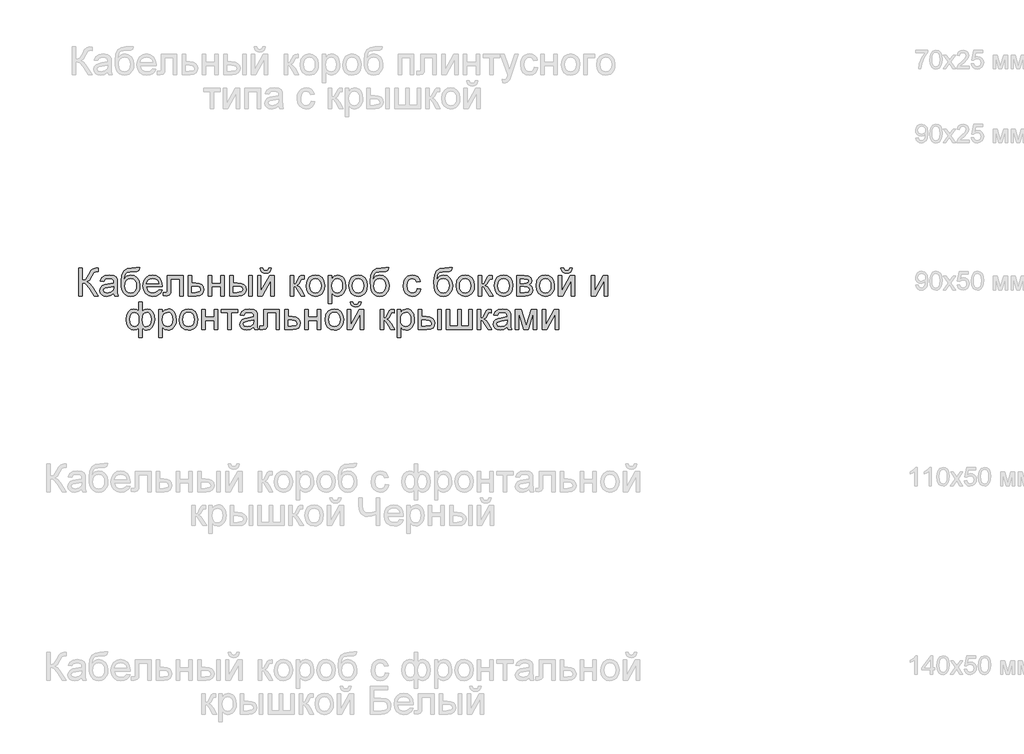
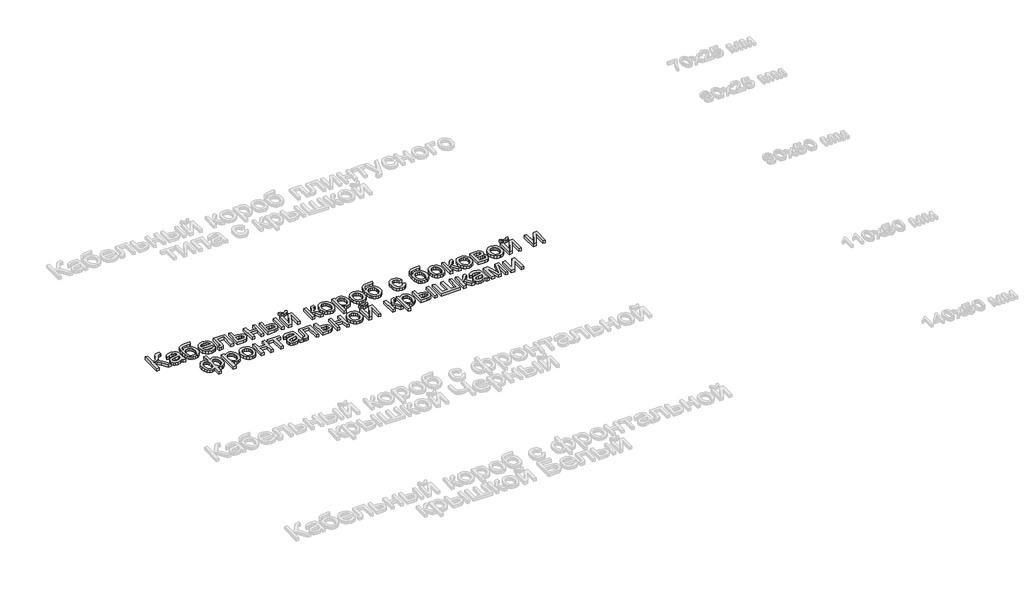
# One storey, part 27 of 48: 1 proxy.
"""IFC4 building model written with IfcOpenShell, lengths in millimetres."""

from ifc_helpers import new_model, si_unit, origin, origin_with_axes, place, context, project, spatial, polyline, outline, extrude, element, save

model = new_model("IFC4")

# Units and contexts
model_context = context("Model", 3, world=origin())
ifc_project = project(units=[si_unit("LENGTHUNIT", "METRE", prefix="MILLI")], contexts=[model_context])

# Site, building, storey
site = spatial("IfcSite", under=ifc_project)
building = spatial("IfcBuilding", under=site)
storey = spatial("IfcBuildingStorey", under=building, Name="Этаж 01", Elevation=0.0)

# Proxy
placement = place(None, origin())
element("IfcBuildingElementProxy", 1, Name="150 мм Arial", ObjectType="150 мм Arial", at=placement, inside=storey, context=model_context, shape_type="SweptSolid", body=[
    extrude(outline(polyline([(-4387.9510033, 3524.5958673), (-4369.1154452, 3524.5958673), (-4369.1154452, 3458.6714138), (-4356.3637355, 3459.917614), (-4348.054201, 3463.6562148), (-4333.3573152, 3488.8745256), (-4322.9646489, 3509.9357698), (-4311.192425, 3520.3652244), (-4294.3618238, 3524.5958673), (-4282.0009887, 3524.3751381), (-4282.0009887, 3505.53958), (-4286.1580553, 3505.6499446), (-4290.3151218, 3505.7603092), (-4305.0304016, 3501.2353606), (-4316.2140143, 3481.8479795), (-4329.5497366, 3458.2299554), (-4342.5543651, 3450.4308571), (-4328.0138293, 3441.9143889), (-4313.6756285, 3424.1640826), (-4282.0009887, 3373.9114021), (-4303.8531792, 3373.9114021), (-4330.6349885, 3416.3649843), (-4349.4889407, 3438.5298745), (-4358.1939484, 3443.0410275), (-4369.1154452, 3444.5447452), (-4369.1154452, 3373.9114021), (-4387.9510033, 3373.9114021), (-4387.9510033, 3524.5958673)])), origin_with_axes(), (0.0, 0.0, 1.0), 20.0),
    extrude(outline(polyline([(-4197.240977, 3388.0380707), (-4215.5063181, 3375.2725655), (-4235.6846455, 3371.5569573), (-4251.4253964, 3373.7918404), (-4263.0366719, 3380.4964898), (-4270.1965752, 3390.677624), (-4272.5832096, 3403.3419617), (-4268.9779661, 3418.2411825), (-4259.5050047, 3429.0569132), (-4246.3164352, 3435.2373307), (-4230.0192628, 3438.0700221), (-4197.3513416, 3444.5447452), (-4197.240977, 3448.7385999), (-4198.5377611, 3457.1447035), (-4202.4281132, 3462.6445393), (-4211.1285223, 3466.7280295), (-4223.2502341, 3468.0891929), (-4242.3065214, 3464.4655552), (-4251.3932067, 3451.6080795), (-4270.2287649, 3453.9625242), (-4262.0801787, 3472.356624), (-4245.6726417, 3483.1355665), (-4220.8222129, 3486.924751), (-4197.9951351, 3483.5770249), (-4185.1008712, 3475.1709213), (-4179.3251239, 3462.3870219), (-4178.4054189, 3445.9059086), (-4178.4054189, 3422.4718255), (-4177.4489257, 3389.748722), (-4173.6965293, 3373.9114021), (-4192.5320875, 3373.9114021), (-4197.240977, 3388.0380707)]), holes=[polyline([(-4197.240977, 3425.709187), (-4227.6280298, 3419.9334397), (-4243.8332317, 3416.8800191), (-4251.1724775, 3411.9136122), (-4253.7476515, 3404.6663369), (-4248.1374511, 3394.4760056), (-4231.6747318, 3390.3925155), (-4212.6184444, 3394.8990699), (-4200.3311858, 3405.8067711), (-4197.3513416, 3420.3748981), (-4197.240977, 3425.709187)])]), origin_with_axes(), (0.0, 0.0, 1.0), 20.0),
    extrude(outline(polyline([(-4074.809849, 3526.9503121), (-4058.3287356, 3526.9503121), (-4063.184778, 3512.2534264), (-4072.7864981, 3506.9375316), (-4095.8526992, 3505.7603092), (-4126.9203336, 3501.4193016), (-4134.0480473, 3495.772313), (-4138.8397103, 3487.5133622), (-4142.8680181, 3462.9020567), (-4126.5524517, 3480.9282745), (-4116.6334334, 3485.4256319), (-4105.5279956, 3486.924751), (-4085.9290823, 3483.1125738), (-4070.0273831, 3471.6760423), (-4059.4875639, 3453.7371965), (-4055.9742909, 3430.4180766), (-4057.7171318, 3412.437844), (-4062.9456547, 3398.0076728), (-4079.4819504, 3378.4547447), (-4090.7759276, 3373.2814042), (-4105.5279956, 3371.5569573), (-4122.5287423, 3373.7780449), (-4135.2712549, 3380.4413075), (-4144.6476473, 3390.5672594), (-4151.5500332, 3403.1764148), (-4155.7990703, 3422.1637243), (-4157.215416, 3451.4241385), (-4153.6423621, 3487.563946), (-4142.9232004, 3509.604676), (-4124.7912166, 3520.8480695), (-4098.9796961, 3524.5958673), (-4078.0104224, 3525.0189316), (-4074.809849, 3526.9503121)]), holes=[polyline([(-4074.809849, 3431.0066877), (-4076.8515941, 3445.8277336), (-4082.9768293, 3457.6965265), (-4092.8176727, 3465.4910263), (-4106.0062422, 3468.0891929), (-4119.7558318, 3465.3438735), (-4129.9553601, 3457.1079153), (-4136.2737334, 3444.2826292), (-4138.3798578, 3427.7693262), (-4136.0530042, 3411.7618609), (-4129.0724433, 3400.0126297), (-4118.679777, 3392.797544), (-4106.1166068, 3390.3925155), (-4093.4890573, 3393.1746231), (-4083.4918641, 3401.5209458), (-4076.9803528, 3414.4565965), (-4074.809849, 3431.0066877)])]), origin_with_axes(), (0.0, 0.0, 1.0), 20.0),
    extrude(outline(polyline([(-3954.953895, 3406.8736289), (-3936.4862188, 3404.5191841), (-3943.1402844, 3390.6040476), (-3953.7582785, 3380.2021842), (-3968.1010778, 3373.718264), (-3985.929559, 3371.5569573), (-4008.0300699, 3375.2863611), (-4025.0354151, 3386.4745722), (-4035.8787369, 3404.3950239), (-4039.4931775, 3428.3211492), (-4035.8419487, 3453.0520163), (-4024.8882623, 3471.5472836), (-4008.1128433, 3483.0803842), (-3986.9964168, 3486.924751), (-3966.5375793, 3483.0895812), (-3950.1898232, 3471.5840718), (-3939.4706615, 3453.1255927), (-3935.8976077, 3428.4315138), (-3936.0079723, 3423.3547422), (-4020.6576193, 3423.3547422), (-4017.3972652, 3409.2556648), (-4009.8234946, 3398.8905896), (-3998.8928008, 3392.517034), (-3985.561677, 3390.3925155), (-3967.0940008, 3394.3288528), (-3954.953895, 3406.8736289)]), holes=[polyline([(-4020.6576193, 3442.1903004), (-3954.7331658, 3442.1903004), (-3957.2807486, 3452.1415084), (-3962.2747467, 3459.260025), (-3973.2560243, 3465.8819009), (-3987.0699932, 3468.0891929), (-3999.7665205, 3466.3279578), (-4010.264953, 3461.0442527), (-4017.5628121, 3452.8082945), (-4020.6576193, 3442.1903004)])]), origin_with_axes(), (0.0, 0.0, 1.0), 20.0),
    extrude(outline(polyline([(-3907.6442704, 3484.5703062), (-3822.8842587, 3484.5703062), (-3822.8842587, 3374.0217667), (-3841.7198169, 3374.0217667), (-3841.7198169, 3465.7347481), (-3888.8087123, 3465.7347481), (-3888.8087123, 3412.9436818), (-3890.0779052, 3388.5898937), (-3897.049269, 3378.3075919), (-3913.5303823, 3373.9114021), (-3928.8342733, 3374.8678953), (-3928.8342733, 3392.7469602), (-3920.4097757, 3392.7469602), (-3911.8933075, 3393.9057885), (-3908.490399, 3397.5846085), (-3907.6442704, 3414.0105396), (-3907.6442704, 3484.5703062)])), origin_with_axes(), (0.0, 0.0, 1.0), 20.0),
    extrude(outline(polyline([(-3794.6309215, 3484.5703062), (-3775.7953634, 3484.5703062), (-3775.7953634, 3444.5447452), (-3754.0903256, 3444.5447452), (-3735.2731616, 3442.1857019), (-3721.3488281, 3435.108572), (-3712.7403894, 3423.8835726), (-3709.8709098, 3409.0809208), (-3712.3127266, 3395.6026442), (-3719.6381768, 3384.2304921), (-3732.3347041, 3376.4911746), (-3750.8897523, 3373.9114021), (-3794.6309215, 3373.9114021), (-3794.6309215, 3484.5703062)]), holes=[polyline([(-3775.7953634, 3392.7469602), (-3758.210604, 3392.7469602), (-3735.4938908, 3396.7016917), (-3730.4033237, 3401.7646677), (-3728.706468, 3409.0441326), (-3733.7280572, 3420.6324155), (-3741.7984685, 3424.4399941), (-3755.9665238, 3425.709187), (-3775.7953634, 3425.709187), (-3775.7953634, 3392.7469602)])]), origin_with_axes(), (0.0, 0.0, 1.0), 20.0),
    extrude(outline(polyline([(-3686.3264621, 3484.5703062), (-3667.490904, 3484.5703062), (-3667.490904, 3442.1903004), (-3618.0475638, 3442.1903004), (-3618.0475638, 3484.5703062), (-3599.2120057, 3484.5703062), (-3599.2120057, 3373.9114021), (-3618.0475638, 3373.9114021), (-3618.0475638, 3423.3547422), (-3667.490904, 3423.3547422), (-3667.490904, 3373.9114021), (-3686.3264621, 3373.9114021), (-3686.3264621, 3484.5703062)])), origin_with_axes(), (0.0, 0.0, 1.0), 20.0),
    extrude(outline(polyline([(-3467.3630986, 3484.5703062), (-3448.5275404, 3484.5703062), (-3448.5275404, 3373.9114021), (-3467.3630986, 3373.9114021), (-3467.3630986, 3484.5703062)])), origin_with_axes(), (0.0, 0.0, 1.0), 20.0),
    extrude(outline(polyline([(-3570.9586684, 3484.5703062), (-3552.1231103, 3484.5703062), (-3552.1231103, 3444.5447452), (-3528.83618, 3444.5447452), (-3508.7084363, 3442.1857019), (-3493.79542, 3435.108572), (-3484.5661804, 3423.8835726), (-3481.4897672, 3409.0809208), (-3484.0695397, 3395.6026442), (-3491.8088572, 3384.2304921), (-3505.2135574, 3376.4911746), (-3524.789478, 3373.9114021), (-3570.9586684, 3373.9114021), (-3570.9586684, 3484.5703062)]), holes=[polyline([(-3552.1231103, 3392.7469602), (-3532.7725173, 3392.7469602), (-3507.7933299, 3396.7016917), (-3502.1923265, 3401.7646677), (-3500.3253254, 3409.0441326), (-3505.8619494, 3420.6324155), (-3514.7417011, 3424.4399941), (-3530.307708, 3425.709187), (-3552.1231103, 3425.709187), (-3552.1231103, 3392.7469602)])]), origin_with_axes(), (0.0, 0.0, 1.0), 20.0),
    extrude(outline(polyline([(-3359.0586392, 3524.5958673), (-3344.9319706, 3524.5958673), (-3347.9715956, 3512.5339364), (-3354.0738382, 3503.6449877), (-3362.9627869, 3498.1681445), (-3374.3625302, 3496.3425301), (-3386.7325623, 3498.1543489), (-3396.3250853, 3503.5898054), (-3402.8825819, 3512.4649585), (-3406.1475346, 3524.5958673), (-3392.020866, 3524.5958673), (-3386.7233653, 3513.9824718), (-3376.0547874, 3510.4691987), (-3364.3561399, 3513.8721072), (-3359.0586392, 3524.5958673)])), origin_with_axes(), (0.0, 0.0, 1.0), 20.0),
    extrude(outline(polyline([(-3420.2742032, 3484.5703062), (-3401.4386451, 3484.5703062), (-3401.4386451, 3400.1781766), (-3355.1590901, 3484.5703062), (-3330.805302, 3484.5703062), (-3330.805302, 3373.9114021), (-3349.6408601, 3373.9114021), (-3349.6408601, 3457.788497), (-3395.6261095, 3373.9114021), (-3420.2742032, 3373.9114021), (-3420.2742032, 3484.5703062)])), origin_with_axes(), (0.0, 0.0, 1.0), 20.0),
    extrude(outline(polyline([(-3243.6908455, 3484.5703062), (-3224.8552874, 3484.5703062), (-3224.8552874, 3437.4814109), (-3212.2369349, 3440.8659252), (-3201.8994509, 3460.5844002), (-3193.3094063, 3477.5989424), (-3185.7310372, 3483.1355665), (-3171.9538565, 3484.5703062), (-3168.3486129, 3484.5703062), (-3168.3486129, 3465.6243835), (-3173.4253845, 3465.7347481), (-3182.6224343, 3463.7481853), (-3189.0971574, 3451.3505621), (-3196.6939206, 3437.9412634), (-3207.3441044, 3431.3745697), (-3195.461516, 3424.044521), (-3183.7996567, 3408.6026742), (-3163.6397234, 3373.9114021), (-3185.0504555, 3373.9114021), (-3204.8057186, 3407.8669103), (-3214.7385325, 3422.2327022), (-3224.8552874, 3425.709187), (-3224.8552874, 3373.9114021), (-3243.6908455, 3373.9114021), (-3243.6908455, 3484.5703062)])), origin_with_axes(), (0.0, 0.0, 1.0), 20.0),
    extrude(outline(polyline([(-3156.5763891, 3429.2408542), (-3152.502096, 3455.9214959), (-3140.2792167, 3474.6742806), (-3125.1776608, 3483.8621334), (-3107.0962607, 3486.924751), (-3087.3088079, 3483.1953473), (-3071.5036777, 3472.0071361), (-3061.143201, 3454.2430343), (-3057.6897088, 3430.7859586), (-3059.216419, 3411.7572624), (-3063.7965499, 3397.2719088), (-3071.2967441, 3386.4239885), (-3081.5836444, 3378.3075919), (-3093.8019251, 3373.244616), (-3107.0962607, 3371.5569573), (-3127.1228368, 3375.2725655), (-3142.909573, 3386.4193899), (-3153.159685, 3404.5559723), (-3156.5763891, 3429.2408542)]), holes=[polyline([(-3137.7408309, 3429.2776424), (-3135.5611301, 3412.2309104), (-3129.0220276, 3400.0862061), (-3119.1811843, 3392.8159381), (-3107.0962607, 3390.3925155), (-3095.0665195, 3392.8297337), (-3085.2440702, 3400.1413884), (-3078.7049677, 3412.4470411), (-3076.5252669, 3429.8662536), (-3078.7187633, 3446.4163448), (-3085.2992525, 3458.3955023), (-3095.1354974, 3465.6657702), (-3107.0962607, 3468.0891929), (-3119.1811843, 3465.6749673), (-3129.0220276, 3458.4322905), (-3135.5611301, 3446.3151773), (-3137.7408309, 3429.2776424)])]), origin_with_axes(), (0.0, 0.0, 1.0), 20.0),
    extrude(outline(polyline([(-3036.4997058, 3331.5313963), (-3036.4997058, 3484.5703062), (-3017.6641477, 3484.5703062), (-3017.6641477, 3466.1026301), (-3004.6411251, 3481.7192208), (-2987.0563657, 3486.924751), (-2974.3184516, 3485.1037351), (-2963.1808242, 3479.6406875), (-2954.112533, 3470.8667019), (-2947.5826276, 3459.1128722), (-2942.3219151, 3430.0869828), (-2943.8072386, 3413.9783499), (-2948.2632093, 3399.5711713), (-2955.5472728, 3387.5966123), (-2965.5168749, 3378.7858385), (-2977.1281503, 3373.3641776), (-2989.3372341, 3371.5569573), (-3005.7263769, 3376.3946056), (-3017.6641477, 3388.6266819), (-3017.6641477, 3331.5313963), (-3036.4997058, 3331.5313963)]), holes=[polyline([(-3017.6641477, 3428.3579374), (-3015.6270011, 3411.4721538), (-3009.5155615, 3399.6631418), (-3000.4978541, 3392.710172), (-2989.7419043, 3390.3925155), (-2978.8112105, 3392.7929455), (-2969.5635768, 3399.9942356), (-2963.2589991, 3412.2355089), (-2961.1574732, 3429.755889), (-2963.2084154, 3446.549702), (-2969.3612417, 3458.524261), (-2978.3651536, 3465.6979599), (-2988.9693521, 3468.0891929), (-2999.6149373, 3465.5462086), (-3008.9637385, 3457.9172557), (-3015.4890454, 3445.4414575), (-3017.6641477, 3428.3579374)])]), origin_with_axes(), (0.0, 0.0, 1.0), 20.0),
    extrude(outline(polyline([(-2925.8408017, 3429.2408542), (-2921.7665086, 3455.9214959), (-2909.5436293, 3474.6742806), (-2894.4420734, 3483.8621334), (-2876.3606733, 3486.924751), (-2856.5732205, 3483.1953473), (-2840.7680903, 3472.0071361), (-2830.4076136, 3454.2430343), (-2826.9541214, 3430.7859586), (-2828.4808317, 3411.7572624), (-2833.0609625, 3397.2719088), (-2840.5611567, 3386.4239885), (-2850.848057, 3378.3075919), (-2863.0663377, 3373.244616), (-2876.3606733, 3371.5569573), (-2896.3872495, 3375.2725655), (-2912.1739856, 3386.4193899), (-2922.4240977, 3404.5559723), (-2925.8408017, 3429.2408542)]), holes=[polyline([(-2907.0052435, 3429.2776424), (-2904.8255427, 3412.2309104), (-2898.2864403, 3400.0862061), (-2888.4455969, 3392.8159381), (-2876.3606733, 3390.3925155), (-2864.3309321, 3392.8297337), (-2854.5084828, 3400.1413884), (-2847.9693804, 3412.4470411), (-2845.7896795, 3429.8662536), (-2847.9831759, 3446.4163448), (-2854.5636651, 3458.3955023), (-2864.39991, 3465.6657702), (-2876.3606733, 3468.0891929), (-2888.4455969, 3465.6749673), (-2898.2864403, 3458.4322905), (-2904.8255427, 3446.3151773), (-2907.0052435, 3429.2776424)])]), origin_with_axes(), (0.0, 0.0, 1.0), 20.0),
    extrude(outline(polyline([(-2728.0674411, 3526.9503121), (-2711.5863277, 3526.9503121), (-2716.44237, 3512.2534264), (-2726.0440901, 3506.9375316), (-2749.1102912, 3505.7603092), (-2780.1779257, 3501.4193016), (-2787.3056394, 3495.772313), (-2792.0973024, 3487.5133622), (-2796.1256102, 3462.9020567), (-2779.8100437, 3480.9282745), (-2769.8910254, 3485.4256319), (-2758.7855877, 3486.924751), (-2739.1866744, 3483.1125738), (-2723.2849752, 3471.6760423), (-2712.745156, 3453.7371965), (-2709.2318829, 3430.4180766), (-2710.9747239, 3412.437844), (-2716.2032467, 3398.0076728), (-2732.7395424, 3378.4547447), (-2744.0335197, 3373.2814042), (-2758.7855877, 3371.5569573), (-2775.7863344, 3373.7780449), (-2788.528847, 3380.4413075), (-2797.9052393, 3390.5672594), (-2804.8076253, 3403.1764148), (-2809.0566623, 3422.1637243), (-2810.473008, 3451.4241385), (-2806.8999541, 3487.563946), (-2796.1807925, 3509.604676), (-2778.0488087, 3520.8480695), (-2752.2372882, 3524.5958673), (-2731.2680144, 3525.0189316), (-2728.0674411, 3526.9503121)]), holes=[polyline([(-2728.0674411, 3431.0066877), (-2730.1091862, 3445.8277336), (-2736.2344214, 3457.6965265), (-2746.0752648, 3465.4910263), (-2759.2638343, 3468.0891929), (-2773.0134239, 3465.3438735), (-2783.2129522, 3457.1079153), (-2789.5313254, 3444.2826292), (-2791.6374499, 3427.7693262), (-2789.3105962, 3411.7618609), (-2782.3300354, 3400.0126297), (-2771.937369, 3392.797544), (-2759.3741989, 3390.3925155), (-2746.7466494, 3393.1746231), (-2736.7494562, 3401.5209458), (-2730.2379449, 3414.4565965), (-2728.0674411, 3431.0066877)])]), origin_with_axes(), (0.0, 0.0, 1.0), 20.0),
    extrude(outline(polyline([(-2556.1929729, 3413.9369632), (-2537.3574148, 3411.5825184), (-2542.6089303, 3394.830092), (-2552.4773648, 3382.1703529), (-2566.0338163, 3374.2103062), (-2582.3493828, 3371.5569573), (-2602.385156, 3375.2587699), (-2618.0523304, 3386.3642076), (-2628.1644868, 3404.3858269), (-2631.5352056, 3428.836184), (-2630.0958672, 3445.5978074), (-2625.7778523, 3460.1245477), (-2618.5121829, 3471.8553848), (-2608.2298812, 3480.2292987), (-2595.9288269, 3485.2508879), (-2582.6069002, 3486.924751), (-2566.6914054, 3484.6254885), (-2553.9672869, 3477.7277011), (-2544.8392149, 3466.5992708), (-2539.7118596, 3451.6080795), (-2558.5474177, 3449.2536347), (-2567.2846151, 3463.3619092), (-2582.4597474, 3468.0891929), (-2594.6320429, 3465.7623392), (-2604.2935438, 3458.7817784), (-2610.5981215, 3446.7704312), (-2612.6996474, 3429.3512188), (-2610.6441068, 3411.6974815), (-2604.4774848, 3399.6447477), (-2594.9907279, 3392.7055735), (-2582.9747822, 3390.3925155), (-2573.2213108, 3391.8364523), (-2565.2244759, 3396.1682628), (-2559.4073419, 3403.4983116), (-2556.1929729, 3413.9369632)])), origin_with_axes(), (0.0, 0.0, 1.0), 20.0),
    extrude(outline(polyline([(-2384.3185048, 3526.9503121), (-2367.8373914, 3526.9503121), (-2372.6934337, 3512.2534264), (-2382.2951538, 3506.9375316), (-2405.3613549, 3505.7603092), (-2436.4289894, 3501.4193016), (-2443.5567031, 3495.772313), (-2448.3483661, 3487.5133622), (-2452.3766739, 3462.9020567), (-2436.0611074, 3480.9282745), (-2426.1420891, 3485.4256319), (-2415.0366514, 3486.924751), (-2395.4377381, 3483.1125738), (-2379.5360389, 3471.6760423), (-2368.9962197, 3453.7371965), (-2365.4829466, 3430.4180766), (-2367.2257876, 3412.437844), (-2372.4543105, 3398.0076728), (-2388.9906061, 3378.4547447), (-2400.2845834, 3373.2814042), (-2415.0366514, 3371.5569573), (-2432.0373981, 3373.7780449), (-2444.7799107, 3380.4413075), (-2454.1563031, 3390.5672594), (-2461.058689, 3403.1764148), (-2465.307726, 3422.1637243), (-2466.7240717, 3451.4241385), (-2463.1510178, 3487.563946), (-2452.4318562, 3509.604676), (-2434.2998724, 3520.8480695), (-2408.4883519, 3524.5958673), (-2387.5190782, 3525.0189316), (-2384.3185048, 3526.9503121)]), holes=[polyline([(-2384.3185048, 3431.0066877), (-2386.3602499, 3445.8277336), (-2392.4854851, 3457.6965265), (-2402.3263285, 3465.4910263), (-2415.514898, 3468.0891929), (-2429.2644876, 3465.3438735), (-2439.4640159, 3457.1079153), (-2445.7823891, 3444.2826292), (-2447.8885136, 3427.7693262), (-2445.5616599, 3411.7618609), (-2438.5810991, 3400.0126297), (-2428.1884327, 3392.797544), (-2415.6252626, 3390.3925155), (-2402.9977131, 3393.1746231), (-2393.0005199, 3401.5209458), (-2386.4890086, 3414.4565965), (-2384.3185048, 3431.0066877)])]), origin_with_axes(), (0.0, 0.0, 1.0), 20.0),
    extrude(outline(polyline([(-2346.6473885, 3429.2408542), (-2342.5730954, 3455.9214959), (-2330.3502161, 3474.6742806), (-2315.2486602, 3483.8621334), (-2297.1672601, 3486.924751), (-2277.3798073, 3483.1953473), (-2261.5746771, 3472.0071361), (-2251.2142004, 3454.2430343), (-2247.7607082, 3430.7859586), (-2249.2874185, 3411.7572624), (-2253.8675493, 3397.2719088), (-2261.3677435, 3386.4239885), (-2271.6546438, 3378.3075919), (-2283.8729245, 3373.244616), (-2297.1672601, 3371.5569573), (-2317.1938363, 3375.2725655), (-2332.9805724, 3386.4193899), (-2343.2306845, 3404.5559723), (-2346.6473885, 3429.2408542)]), holes=[polyline([(-2327.8118303, 3429.2776424), (-2325.6321295, 3412.2309104), (-2319.0930271, 3400.0862061), (-2309.2521837, 3392.8159381), (-2297.1672601, 3390.3925155), (-2285.1375189, 3392.8297337), (-2275.3150696, 3400.1413884), (-2268.7759672, 3412.4470411), (-2266.5962663, 3429.8662536), (-2268.7897627, 3446.4163448), (-2275.3702519, 3458.3955023), (-2285.2064968, 3465.6657702), (-2297.1672601, 3468.0891929), (-2309.2521837, 3465.6749673), (-2319.0930271, 3458.4322905), (-2325.6321295, 3446.3151773), (-2327.8118303, 3429.2776424)])]), origin_with_axes(), (0.0, 0.0, 1.0), 20.0),
    extrude(outline(polyline([(-2226.5707053, 3484.5703062), (-2207.7351471, 3484.5703062), (-2207.7351471, 3437.4814109), (-2195.1167947, 3440.8659252), (-2184.7793106, 3460.5844002), (-2176.189266, 3477.5989424), (-2168.6108969, 3483.1355665), (-2154.8337162, 3484.5703062), (-2151.2284727, 3484.5703062), (-2151.2284727, 3465.6243835), (-2156.3052442, 3465.7347481), (-2165.5022941, 3463.7481853), (-2171.9770172, 3451.3505621), (-2179.5737804, 3437.9412634), (-2190.2239641, 3431.3745697), (-2178.3413757, 3424.044521), (-2166.6795164, 3408.6026742), (-2146.5195831, 3373.9114021), (-2167.9303152, 3373.9114021), (-2187.6855784, 3407.8669103), (-2197.6183922, 3422.2327022), (-2207.7351471, 3425.709187), (-2207.7351471, 3373.9114021), (-2226.5707053, 3373.9114021), (-2226.5707053, 3484.5703062)])), origin_with_axes(), (0.0, 0.0, 1.0), 20.0),
    extrude(outline(polyline([(-2139.4562488, 3429.2408542), (-2135.3819557, 3455.9214959), (-2123.1590764, 3474.6742806), (-2108.0575205, 3483.8621334), (-2089.9761205, 3486.924751), (-2070.1886676, 3483.1953473), (-2054.3835374, 3472.0071361), (-2044.0230607, 3454.2430343), (-2040.5695685, 3430.7859586), (-2042.0962788, 3411.7572624), (-2046.6764096, 3397.2719088), (-2054.1766038, 3386.4239885), (-2064.4635041, 3378.3075919), (-2076.6817849, 3373.244616), (-2089.9761205, 3371.5569573), (-2110.0026966, 3375.2725655), (-2125.7894327, 3386.4193899), (-2136.0395448, 3404.5559723), (-2139.4562488, 3429.2408542)]), holes=[polyline([(-2120.6206907, 3429.2776424), (-2118.4409898, 3412.2309104), (-2111.9018874, 3400.0862061), (-2102.061044, 3392.8159381), (-2089.9761205, 3390.3925155), (-2077.9463792, 3392.8297337), (-2068.1239299, 3400.1413884), (-2061.5848275, 3412.4470411), (-2059.4051267, 3429.8662536), (-2061.5986231, 3446.4163448), (-2068.1791122, 3458.3955023), (-2078.0153571, 3465.6657702), (-2089.9761205, 3468.0891929), (-2102.061044, 3465.6749673), (-2111.9018874, 3458.4322905), (-2118.4409898, 3446.3151773), (-2120.6206907, 3429.2776424)])]), origin_with_axes(), (0.0, 0.0, 1.0), 20.0),
    extrude(outline(polyline([(-2019.3795656, 3484.5703062), (-1977.8824765, 3484.5703062), (-1955.1289751, 3482.0503146), (-1942.3266817, 3472.8164765), (-1936.9739987, 3456.7216392), (-1940.2113602, 3443.6434343), (-1949.9602331, 3434.3176257), (-1937.3050925, 3424.1089003), (-1932.2651091, 3406.3585941), (-1935.4564854, 3392.0019992), (-1943.0440516, 3381.8944414), (-1955.0553987, 3375.9071619), (-1971.518118, 3373.9114021), (-2019.3795656, 3373.9114021), (-2019.3795656, 3484.5703062)]), holes=[polyline([(-2000.5440074, 3442.1903004), (-1981.9291785, 3442.1903004), (-1966.5701052, 3443.1467936), (-1959.1021007, 3446.9727663), (-1955.8095568, 3453.8889478), (-1957.2534936, 3459.5083453), (-1961.5853041, 3463.1227859), (-1981.3405673, 3465.7347481), (-2000.5440074, 3465.7347481), (-2000.5440074, 3442.1903004)]), polyline([(-2000.5440074, 3392.7469602), (-1977.4410181, 3392.7469602), (-1956.949991, 3396.1498687), (-1952.710151, 3400.7897804), (-1951.1006673, 3407.9036985), (-1954.3196347, 3416.9719896), (-1962.7073442, 3422.2510963), (-1979.2804281, 3423.3547422), (-2000.5440074, 3423.3547422), (-2000.5440074, 3392.7469602)])]), origin_with_axes(), (0.0, 0.0, 1.0), 20.0),
    extrude(outline(polyline([(-1913.429551, 3429.2408542), (-1909.3552579, 3455.9214959), (-1897.1323786, 3474.6742806), (-1882.0308227, 3483.8621334), (-1863.9494226, 3486.924751), (-1844.1619698, 3483.1953473), (-1828.3568396, 3472.0071361), (-1817.9963629, 3454.2430343), (-1814.5428707, 3430.7859586), (-1816.0695809, 3411.7572624), (-1820.6497118, 3397.2719088), (-1828.149906, 3386.4239885), (-1838.4368063, 3378.3075919), (-1850.655087, 3373.244616), (-1863.9494226, 3371.5569573), (-1883.9759987, 3375.2725655), (-1899.7627348, 3386.4193899), (-1910.0128469, 3404.5559723), (-1913.429551, 3429.2408542)]), holes=[polyline([(-1894.5939928, 3429.2776424), (-1892.414292, 3412.2309104), (-1885.8751895, 3400.0862061), (-1876.0343462, 3392.8159381), (-1863.9494226, 3390.3925155), (-1851.9196814, 3392.8297337), (-1842.0972321, 3400.1413884), (-1835.5581296, 3412.4470411), (-1833.3784288, 3429.8662536), (-1835.5719252, 3446.4163448), (-1842.1524144, 3458.3955023), (-1851.9886593, 3465.6657702), (-1863.9494226, 3468.0891929), (-1876.0343462, 3465.6749673), (-1885.8751895, 3458.4322905), (-1892.414292, 3446.3151773), (-1894.5939928, 3429.2776424)])]), origin_with_axes(), (0.0, 0.0, 1.0), 20.0),
    extrude(outline(polyline([(-1793.3528677, 3484.5703062), (-1774.5173096, 3484.5703062), (-1774.5173096, 3400.1781766), (-1728.2377546, 3484.5703062), (-1703.8839665, 3484.5703062), (-1703.8839665, 3373.9114021), (-1722.7195247, 3373.9114021), (-1722.7195247, 3457.788497), (-1768.7047741, 3373.9114021), (-1793.3528677, 3373.9114021), (-1793.3528677, 3484.5703062)])), origin_with_axes(), (0.0, 0.0, 1.0), 20.0),
    extrude(outline(polyline([(-1732.1373037, 3524.5958673), (-1718.0106351, 3524.5958673), (-1721.0502601, 3512.5339364), (-1727.1525027, 3503.6449877), (-1736.0414514, 3498.1681445), (-1747.4411947, 3496.3425301), (-1759.8112268, 3498.1543489), (-1769.4037499, 3503.5898054), (-1775.9612464, 3512.4649585), (-1779.2261991, 3524.5958673), (-1765.0995305, 3524.5958673), (-1759.8020298, 3513.9824718), (-1749.1334519, 3510.4691987), (-1737.4348045, 3513.8721072), (-1732.1373037, 3524.5958673)])), origin_with_axes(), (0.0, 0.0, 1.0), 20.0),
    extrude(outline(polyline([(-1616.7695101, 3484.5703062), (-1597.9339519, 3484.5703062), (-1597.9339519, 3400.1781766), (-1551.6543969, 3484.5703062), (-1527.3006088, 3484.5703062), (-1527.3006088, 3373.9114021), (-1546.136167, 3373.9114021), (-1546.136167, 3457.788497), (-1592.1214164, 3373.9114021), (-1616.7695101, 3373.9114021), (-1616.7695101, 3484.5703062)])), origin_with_axes(), (0.0, 0.0, 1.0), 20.0),
    extrude(outline(polyline([(-4061.8604028, 3341.6336406), (-4043.0248446, 3341.6336406), (-4043.0248446, 3290.9762898), (-4031.0502857, 3300.7435568), (-4017.0155876, 3303.9625242), (-4000.5298757, 3299.8698371), (-3987.8609395, 3287.5917755), (-3979.7905282, 3269.1057052), (-3977.1003911, 3246.388992), (-3979.9974618, 3222.9779015), (-3988.688674, 3204.5424151), (-4001.6841054, 3192.5816517), (-4017.4938342, 3188.5947306), (-4029.0085406, 3190.4341405), (-4043.0248446, 3200.477319), (-4043.0248446, 3148.5691695), (-4061.8604028, 3148.5691695), (-4061.8604028, 3200.477319), (-4073.890144, 3191.5745747), (-4088.1271773, 3188.5947306), (-4103.9093149, 3192.4023092), (-4117.5577369, 3203.8250452), (-4126.99391, 3222.3387066), (-4130.1393011, 3247.4190616), (-4127.2928142, 3269.5011783), (-4118.7533534, 3287.7021401), (-4105.4038355, 3299.8974282), (-4088.1271773, 3303.9625242), (-4073.5406561, 3300.7435568), (-4061.8604028, 3290.9762898), (-4061.8604028, 3341.6336406)]), holes=[polyline([(-4043.1352092, 3245.9475336), (-4041.5671122, 3226.8774507), (-4036.8628212, 3215.2845693), (-4029.7948884, 3209.3938589), (-4021.1358659, 3207.4302887), (-4011.4559709, 3209.8445143), (-4003.3119833, 3217.0871911), (-3997.7799578, 3229.4158364), (-3995.9359493, 3247.0879678), (-3997.6374035, 3263.8449927), (-4002.7417662, 3275.709187), (-4010.5132733, 3282.7725213), (-4020.2161609, 3285.1269661), (-4030.2087556, 3282.6759523), (-4037.377856, 3275.3229109), (-4041.6958709, 3263.077039), (-4043.1352092, 3245.9475336)]), polyline([(-4111.303743, 3247.8237318), (-4109.4183477, 3229.3468586), (-4103.7621621, 3216.884856), (-4095.3100732, 3209.7939305), (-4085.0369685, 3207.4302887), (-4074.8144476, 3209.780135), (-4067.5441796, 3216.8296737), (-4063.1985736, 3228.5789049), (-4061.7500382, 3245.0278286), (-4063.27215, 3262.5712013), (-4067.8384852, 3275.1021817), (-4075.4766351, 3282.62077), (-4086.2141909, 3285.1269661), (-4096.2941576, 3282.6805508), (-4104.313985, 3275.341305), (-4109.5563035, 3263.5690812), (-4111.303743, 3247.8237318)])]), origin_with_axes(), (0.0, 0.0, 1.0), 20.0),
    extrude(outline(polyline([(-3953.5559434, 3148.5691695), (-3953.5559434, 3301.6080795), (-3934.7203853, 3301.6080795), (-3934.7203853, 3283.1404033), (-3921.6973626, 3298.756994), (-3904.1126033, 3303.9625242), (-3891.3746892, 3302.1415084), (-3880.2370618, 3296.6784607), (-3871.1687706, 3287.9044752), (-3864.6388652, 3276.1506454), (-3859.3781527, 3247.124756), (-3860.8634762, 3231.0161231), (-3865.3194469, 3216.6089445), (-3872.6035104, 3204.6343855), (-3882.5731125, 3195.8236118), (-3894.1843879, 3190.4019509), (-3906.3934716, 3188.5947306), (-3922.7826145, 3193.4323788), (-3934.7203853, 3205.6644551), (-3934.7203853, 3148.5691695), (-3953.5559434, 3148.5691695)]), holes=[polyline([(-3934.7203853, 3245.3957106), (-3932.6832387, 3228.509927), (-3926.5717991, 3216.700915), (-3917.5540917, 3209.7479453), (-3906.7981418, 3207.4302887), (-3895.8674481, 3209.8307187), (-3886.6198144, 3217.0320088), (-3880.3152367, 3229.2732822), (-3878.2137108, 3246.7936622), (-3880.2646529, 3263.5874753), (-3886.4174793, 3275.5620342), (-3895.4213911, 3282.7357331), (-3906.0255896, 3285.1269661), (-3916.6711749, 3282.5839818), (-3926.0199761, 3274.9550289), (-3932.545283, 3262.4792308), (-3934.7203853, 3245.3957106)])]), origin_with_axes(), (0.0, 0.0, 1.0), 20.0),
    extrude(outline(polyline([(-3842.8970393, 3246.2786274), (-3838.8227462, 3272.9592691), (-3826.5998669, 3291.7120538), (-3811.498311, 3300.8999066), (-3793.4169109, 3303.9625242), (-3773.6294581, 3300.2331205), (-3757.8243279, 3289.0449093), (-3747.4638512, 3271.2808075), (-3744.010359, 3247.8237318), (-3745.5370692, 3228.7950356), (-3750.1172001, 3214.309682), (-3757.6173943, 3203.4617617), (-3767.9042946, 3195.3453652), (-3780.1225753, 3190.2823892), (-3793.4169109, 3188.5947306), (-3813.443487, 3192.3103387), (-3829.2302232, 3203.4571632), (-3839.4803352, 3221.5937455), (-3842.8970393, 3246.2786274)]), holes=[polyline([(-3824.0614811, 3246.3154156), (-3821.8817803, 3229.2686837), (-3815.3426778, 3217.1239793), (-3805.5018345, 3209.8537114), (-3793.4169109, 3207.4302887), (-3781.3871697, 3209.8675069), (-3771.5647204, 3217.1791616), (-3765.0256179, 3229.4848143), (-3762.8459171, 3246.9040268), (-3765.0394135, 3263.4541181), (-3771.6199027, 3275.4332755), (-3781.4561476, 3282.7035435), (-3793.4169109, 3285.1269661), (-3805.5018345, 3282.7127405), (-3815.3426778, 3275.4700637), (-3821.8817803, 3263.3529505), (-3824.0614811, 3246.3154156)])]), origin_with_axes(), (0.0, 0.0, 1.0), 20.0),
    extrude(outline(polyline([(-3722.820356, 3301.6080795), (-3703.9847979, 3301.6080795), (-3703.9847979, 3259.2280736), (-3654.5414577, 3259.2280736), (-3654.5414577, 3301.6080795), (-3635.7058996, 3301.6080795), (-3635.7058996, 3190.9491753), (-3654.5414577, 3190.9491753), (-3654.5414577, 3240.3925155), (-3703.9847979, 3240.3925155), (-3703.9847979, 3190.9491753), (-3722.820356, 3190.9491753), (-3722.820356, 3301.6080795)])), origin_with_axes(), (0.0, 0.0, 1.0), 20.0),
    extrude(outline(polyline([(-3616.8703414, 3301.6080795), (-3527.4014402, 3301.6080795), (-3527.4014402, 3282.7725213), (-3562.7181117, 3282.7725213), (-3562.7181117, 3190.9491753), (-3581.5536699, 3190.9491753), (-3581.5536699, 3282.7725213), (-3616.8703414, 3282.7725213), (-3616.8703414, 3301.6080795)])), origin_with_axes(), (0.0, 0.0, 1.0), 20.0),
    extrude(outline(polyline([(-3440.2869838, 3205.0758439), (-3458.5523248, 3192.3103387), (-3478.7306522, 3188.5947306), (-3494.4714031, 3190.8296137), (-3506.0826786, 3197.534263), (-3513.2425819, 3207.7153973), (-3515.6292164, 3220.3797349), (-3512.0239728, 3235.2789557), (-3502.5510114, 3246.0946864), (-3489.3624419, 3252.2751039), (-3473.0652695, 3255.1077953), (-3440.3973484, 3261.5825184), (-3440.2869838, 3265.7763731), (-3441.5837678, 3274.1824767), (-3445.4741199, 3279.6823126), (-3454.1745291, 3283.7658027), (-3466.2962408, 3285.1269661), (-3485.3525282, 3281.5033284), (-3494.4392134, 3268.6458527), (-3513.2747716, 3271.0002975), (-3505.1261854, 3289.3943972), (-3488.7186484, 3300.1733397), (-3463.8682196, 3303.9625242), (-3441.0411418, 3300.6147981), (-3428.1468779, 3292.2086945), (-3422.3711306, 3279.4247952), (-3421.4514256, 3262.9436818), (-3421.4514256, 3239.5095987), (-3420.4949324, 3206.7864952), (-3416.7425361, 3190.9491753), (-3435.5780942, 3190.9491753), (-3440.2869838, 3205.0758439)]), holes=[polyline([(-3440.2869838, 3242.7469602), (-3470.6740366, 3236.9712129), (-3486.8792384, 3233.9177924), (-3494.2184842, 3228.9513854), (-3496.7936582, 3221.7041101), (-3491.1834578, 3211.5137789), (-3474.7207385, 3207.4302887), (-3455.6644512, 3211.9368432), (-3443.3771925, 3222.8445443), (-3440.3973484, 3237.4126713), (-3440.2869838, 3242.7469602)])]), origin_with_axes(), (0.0, 0.0, 1.0), 20.0),
    extrude(outline(polyline([(-3386.1347541, 3301.6080795), (-3301.3747424, 3301.6080795), (-3301.3747424, 3191.0595399), (-3320.2103005, 3191.0595399), (-3320.2103005, 3282.7725213), (-3367.2991959, 3282.7725213), (-3367.2991959, 3229.981455), (-3368.5683888, 3205.6276669), (-3375.5397526, 3195.3453652), (-3392.020866, 3190.9491753), (-3407.324757, 3191.9056685), (-3407.324757, 3209.7847335), (-3398.9002593, 3209.7847335), (-3390.3837911, 3210.9435618), (-3386.9808827, 3214.6223817), (-3386.1347541, 3231.0483128), (-3386.1347541, 3301.6080795)])), origin_with_axes(), (0.0, 0.0, 1.0), 20.0),
    extrude(outline(polyline([(-3273.1214051, 3301.6080795), (-3254.285847, 3301.6080795), (-3254.285847, 3261.5825184), (-3232.5808093, 3261.5825184), (-3213.7636452, 3259.2234751), (-3199.8393117, 3252.1463452), (-3191.230873, 3240.9213458), (-3188.3613935, 3226.1186941), (-3190.8032102, 3212.6404175), (-3198.1286604, 3201.2682653), (-3210.8251878, 3193.5289478), (-3229.3802359, 3190.9491753), (-3273.1214051, 3190.9491753), (-3273.1214051, 3301.6080795)]), holes=[polyline([(-3254.285847, 3209.7847335), (-3236.7010876, 3209.7847335), (-3213.9843744, 3213.7394649), (-3208.8938073, 3218.8024409), (-3207.1969516, 3226.0819059), (-3212.2185408, 3237.6701887), (-3220.2889521, 3241.4777674), (-3234.4570075, 3242.7469602), (-3254.285847, 3242.7469602), (-3254.285847, 3209.7847335)])]), origin_with_axes(), (0.0, 0.0, 1.0), 20.0),
    extrude(outline(polyline([(-3164.8169458, 3301.6080795), (-3145.9813876, 3301.6080795), (-3145.9813876, 3259.2280736), (-3096.5380475, 3259.2280736), (-3096.5380475, 3301.6080795), (-3077.7024893, 3301.6080795), (-3077.7024893, 3190.9491753), (-3096.5380475, 3190.9491753), (-3096.5380475, 3240.3925155), (-3145.9813876, 3240.3925155), (-3145.9813876, 3190.9491753), (-3164.8169458, 3190.9491753), (-3164.8169458, 3301.6080795)])), origin_with_axes(), (0.0, 0.0, 1.0), 20.0),
    extrude(outline(polyline([(-3054.1580416, 3246.2786274), (-3050.0837485, 3272.9592691), (-3037.8608692, 3291.7120538), (-3022.7593133, 3300.8999066), (-3004.6779133, 3303.9625242), (-2984.8904604, 3300.2331205), (-2969.0853302, 3289.0449093), (-2958.7248535, 3271.2808075), (-2955.2713613, 3247.8237318), (-2956.7980716, 3228.7950356), (-2961.3782024, 3214.309682), (-2968.8783966, 3203.4617617), (-2979.1652969, 3195.3453652), (-2991.3835777, 3190.2823892), (-3004.6779133, 3188.5947306), (-3024.7044894, 3192.3103387), (-3040.4912255, 3203.4571632), (-3050.7413376, 3221.5937455), (-3054.1580416, 3246.2786274)]), holes=[polyline([(-3035.3224835, 3246.3154156), (-3033.1427826, 3229.2686837), (-3026.6036802, 3217.1239793), (-3016.7628368, 3209.8537114), (-3004.6779133, 3207.4302887), (-2992.648172, 3209.8675069), (-2982.8257227, 3217.1791616), (-2976.2866203, 3229.4848143), (-2974.1069195, 3246.9040268), (-2976.3004159, 3263.4541181), (-2982.880905, 3275.4332755), (-2992.7171499, 3282.7035435), (-3004.6779133, 3285.1269661), (-3016.7628368, 3282.7127405), (-3026.6036802, 3275.4700637), (-3033.1427826, 3263.3529505), (-3035.3224835, 3246.3154156)])]), origin_with_axes(), (0.0, 0.0, 1.0), 20.0),
    extrude(outline(polyline([(-2934.0813584, 3301.6080795), (-2915.2458002, 3301.6080795), (-2915.2458002, 3217.2159498), (-2868.9662452, 3301.6080795), (-2844.6124572, 3301.6080795), (-2844.6124572, 3190.9491753), (-2863.4480153, 3190.9491753), (-2863.4480153, 3274.8262702), (-2909.4332647, 3190.9491753), (-2934.0813584, 3190.9491753), (-2934.0813584, 3301.6080795)])), origin_with_axes(), (0.0, 0.0, 1.0), 20.0),
    extrude(outline(polyline([(-2872.8657944, 3341.6336406), (-2858.7391258, 3341.6336406), (-2861.7787508, 3329.5717096), (-2867.8809934, 3320.6827609), (-2876.7699421, 3315.2059177), (-2888.1696854, 3313.3803033), (-2900.5397175, 3315.1921221), (-2910.1322405, 3320.6275786), (-2916.6897371, 3329.5027318), (-2919.9546898, 3341.6336406), (-2905.8280212, 3341.6336406), (-2900.5305204, 3331.020245), (-2889.8619426, 3327.5069719), (-2878.1632951, 3330.9098804), (-2872.8657944, 3341.6336406)])), origin_with_axes(), (0.0, 0.0, 1.0), 20.0),
    extrude(outline(polyline([(-2757.4980007, 3301.6080795), (-2738.6624426, 3301.6080795), (-2738.6624426, 3254.5191841), (-2726.0440901, 3257.9036985), (-2715.7066061, 3277.6221734), (-2707.1165615, 3294.6367157), (-2699.5381924, 3300.1733397), (-2685.7610116, 3301.6080795), (-2682.1557681, 3301.6080795), (-2682.1557681, 3282.6621567), (-2687.2325396, 3282.7725213), (-2696.4295895, 3280.7859586), (-2702.9043126, 3268.3883353), (-2710.5010758, 3254.9790366), (-2721.1512596, 3248.412343), (-2709.2686711, 3241.0822942), (-2697.6068119, 3225.6404475), (-2677.4468786, 3190.9491753), (-2698.8576107, 3190.9491753), (-2718.6128738, 3224.9046835), (-2728.5456877, 3239.2704754), (-2738.6624426, 3242.7469602), (-2738.6624426, 3190.9491753), (-2757.4980007, 3190.9491753), (-2757.4980007, 3301.6080795)])), origin_with_axes(), (0.0, 0.0, 1.0), 20.0),
    extrude(outline(polyline([(-2665.6746547, 3148.5691695), (-2665.6746547, 3301.6080795), (-2646.8390966, 3301.6080795), (-2646.8390966, 3283.1404033), (-2633.8160739, 3298.756994), (-2616.2313146, 3303.9625242), (-2603.4934005, 3302.1415084), (-2592.3557731, 3296.6784607), (-2583.2874819, 3287.9044752), (-2576.7575765, 3276.1506454), (-2571.4968639, 3247.124756), (-2572.9821875, 3231.0161231), (-2577.4381582, 3216.6089445), (-2584.7222217, 3204.6343855), (-2594.6918237, 3195.8236118), (-2606.3030992, 3190.4019509), (-2618.5121829, 3188.5947306), (-2634.9013258, 3193.4323788), (-2646.8390966, 3205.6644551), (-2646.8390966, 3148.5691695), (-2665.6746547, 3148.5691695)]), holes=[polyline([(-2646.8390966, 3245.3957106), (-2644.80195, 3228.509927), (-2638.6905104, 3216.700915), (-2629.672803, 3209.7479453), (-2618.9168531, 3207.4302887), (-2607.9861593, 3209.8307187), (-2598.7385257, 3217.0320088), (-2592.433948, 3229.2732822), (-2590.3324221, 3246.7936622), (-2592.3833642, 3263.5874753), (-2598.5361906, 3275.5620342), (-2607.5401024, 3282.7357331), (-2618.1443009, 3285.1269661), (-2628.7898862, 3282.5839818), (-2638.1386874, 3274.9550289), (-2644.6639943, 3262.4792308), (-2646.8390966, 3245.3957106)])]), origin_with_axes(), (0.0, 0.0, 1.0), 20.0),
    extrude(outline(polyline([(-2446.7112912, 3301.6080795), (-2427.875733, 3301.6080795), (-2427.875733, 3190.9491753), (-2446.7112912, 3190.9491753), (-2446.7112912, 3301.6080795)])), origin_with_axes(), (0.0, 0.0, 1.0), 20.0),
    extrude(outline(polyline([(-2550.306861, 3301.6080795), (-2531.4713029, 3301.6080795), (-2531.4713029, 3261.5825184), (-2508.1843726, 3261.5825184), (-2488.0566289, 3259.2234751), (-2473.1436125, 3252.1463452), (-2463.914373, 3240.9213458), (-2460.8379598, 3226.1186941), (-2463.4177323, 3212.6404175), (-2471.1570498, 3201.2682653), (-2484.56175, 3193.5289478), (-2504.1376706, 3190.9491753), (-2550.306861, 3190.9491753), (-2550.306861, 3301.6080795)]), holes=[polyline([(-2531.4713029, 3209.7847335), (-2512.1207099, 3209.7847335), (-2487.1415224, 3213.7394649), (-2481.5405191, 3218.8024409), (-2479.6735179, 3226.0819059), (-2485.210142, 3237.6701887), (-2494.0898936, 3241.4777674), (-2509.6559006, 3242.7469602), (-2531.4713029, 3242.7469602), (-2531.4713029, 3209.7847335)])]), origin_with_axes(), (0.0, 0.0, 1.0), 20.0),
    extrude(outline(polyline([(-2399.6223958, 3301.6080795), (-2380.7868376, 3301.6080795), (-2380.7868376, 3209.7847335), (-2338.4068318, 3209.7847335), (-2338.4068318, 3301.6080795), (-2319.5712736, 3301.6080795), (-2319.5712736, 3209.7847335), (-2277.1912678, 3209.7847335), (-2277.1912678, 3301.6080795), (-2258.3557096, 3301.6080795), (-2258.3557096, 3190.9491753), (-2399.6223958, 3190.9491753), (-2399.6223958, 3301.6080795)])), origin_with_axes(), (0.0, 0.0, 1.0), 20.0),
    extrude(outline(polyline([(-2232.4568172, 3301.6080795), (-2213.621259, 3301.6080795), (-2213.621259, 3254.5191841), (-2201.0029066, 3257.9036985), (-2190.6654225, 3277.6221734), (-2182.0753779, 3294.6367157), (-2174.4970088, 3300.1733397), (-2160.7198281, 3301.6080795), (-2157.1145846, 3301.6080795), (-2157.1145846, 3282.6621567), (-2162.1913561, 3282.7725213), (-2171.388406, 3280.7859586), (-2177.8631291, 3268.3883353), (-2185.4598923, 3254.9790366), (-2196.1100761, 3248.412343), (-2184.2274876, 3241.0822942), (-2172.5656284, 3225.6404475), (-2152.405695, 3190.9491753), (-2173.8164272, 3190.9491753), (-2193.5716903, 3224.9046835), (-2203.5045042, 3239.2704754), (-2213.621259, 3242.7469602), (-2213.621259, 3190.9491753), (-2232.4568172, 3190.9491753), (-2232.4568172, 3301.6080795)])), origin_with_axes(), (0.0, 0.0, 1.0), 20.0),
    extrude(outline(polyline([(-2070.0001281, 3205.0758439), (-2088.2654692, 3192.3103387), (-2108.4437966, 3188.5947306), (-2124.1845475, 3190.8296137), (-2135.795823, 3197.534263), (-2142.9557263, 3207.7153973), (-2145.3423607, 3220.3797349), (-2141.7371172, 3235.2789557), (-2132.2641558, 3246.0946864), (-2119.0755863, 3252.2751039), (-2102.7784139, 3255.1077953), (-2070.1104927, 3261.5825184), (-2070.0001281, 3265.7763731), (-2071.2969122, 3274.1824767), (-2075.1872642, 3279.6823126), (-2083.8876734, 3283.7658027), (-2096.0093852, 3285.1269661), (-2115.0656725, 3281.5033284), (-2124.1523578, 3268.6458527), (-2142.987916, 3271.0002975), (-2134.8393298, 3289.3943972), (-2118.4317928, 3300.1733397), (-2093.581364, 3303.9625242), (-2070.7542862, 3300.6147981), (-2057.8600223, 3292.2086945), (-2052.084275, 3279.4247952), (-2051.16457, 3262.9436818), (-2051.16457, 3239.5095987), (-2050.2080768, 3206.7864952), (-2046.4556804, 3190.9491753), (-2065.2912386, 3190.9491753), (-2070.0001281, 3205.0758439)]), holes=[polyline([(-2070.0001281, 3242.7469602), (-2100.3871809, 3236.9712129), (-2116.5923828, 3233.9177924), (-2123.9316286, 3228.9513854), (-2126.5068026, 3221.7041101), (-2120.8966022, 3211.5137789), (-2104.4338829, 3207.4302887), (-2085.3775955, 3211.9368432), (-2073.0903369, 3222.8445443), (-2070.1104927, 3237.4126713), (-2070.0001281, 3242.7469602)])]), origin_with_axes(), (0.0, 0.0, 1.0), 20.0),
    extrude(outline(polyline([(-2025.2656775, 3301.6080795), (-1992.8552737, 3301.6080795), (-1967.8760863, 3213.022095), (-1940.9471242, 3301.6080795), (-1909.8978838, 3301.6080795), (-1909.8978838, 3190.9491753), (-1928.733442, 3190.9491753), (-1928.733442, 3280.0501946), (-1955.8095568, 3190.9491753), (-1980.5312269, 3190.9491753), (-2006.4301194, 3284.3176257), (-2006.4301194, 3190.9491753), (-2025.2656775, 3190.9491753), (-2025.2656775, 3301.6080795)])), origin_with_axes(), (0.0, 0.0, 1.0), 20.0),
    extrude(outline(polyline([(-1881.6445466, 3301.6080795), (-1862.8089884, 3301.6080795), (-1862.8089884, 3217.2159498), (-1816.5294334, 3301.6080795), (-1792.1756454, 3301.6080795), (-1792.1756454, 3190.9491753), (-1811.0112035, 3190.9491753), (-1811.0112035, 3274.8262702), (-1856.9964529, 3190.9491753), (-1881.6445466, 3190.9491753), (-1881.6445466, 3301.6080795)])), origin_with_axes(), (0.0, 0.0, 1.0), 20.0),
])

save(model, "model.ifc")
